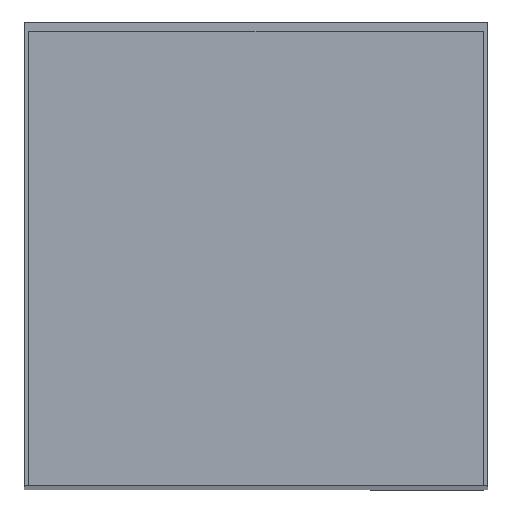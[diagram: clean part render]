
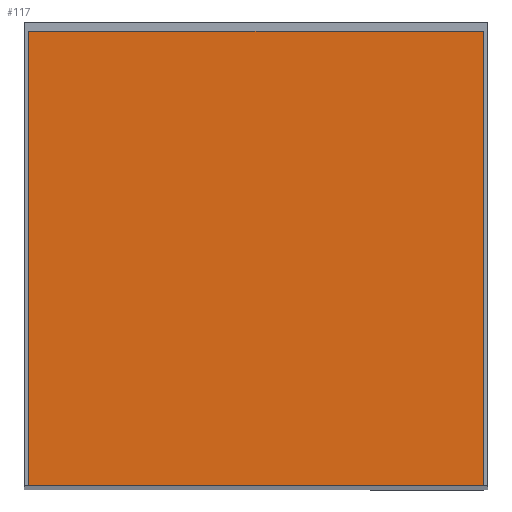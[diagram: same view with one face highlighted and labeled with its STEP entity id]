
A CAD part, top view. The second image highlights one B-rep face of the part: STEP entity #117.
In plain terms, the highlighted planar face has unit normal (0, 0, 1).
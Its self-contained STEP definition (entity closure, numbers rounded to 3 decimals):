
#1 = EDGE_CURVE ( 'NONE', #464, #560, #112, .T. ) ;
#4 = VERTEX_POINT ( 'NONE', #336 ) ;
#9 = DIRECTION ( 'NONE',  ( 0., -1., 0. ) ) ;
#16 = VECTOR ( 'NONE', #230, 1000. ) ;
#41 = VECTOR ( 'NONE', #364, 1000. ) ;
#52 = VECTOR ( 'NONE', #416, 1000. ) ;
#70 = VERTEX_POINT ( 'NONE', #564 ) ;
#107 = ORIENTED_EDGE ( 'NONE', *, *, #120, .T. ) ;
#110 = LINE ( 'NONE', #296, #338 ) ;
#112 = LINE ( 'NONE', #258, #41 ) ;
#117 = ADVANCED_FACE ( 'NONE', ( #256 ), #232, .F. ) ;
#120 = EDGE_CURVE ( 'NONE', #560, #4, #273, .T. ) ;
#122 = ORIENTED_EDGE ( 'NONE', *, *, #1, .T. ) ;
#128 = EDGE_CURVE ( 'NONE', #70, #464, #139, .T. ) ;
#139 = LINE ( 'NONE', #266, #52 ) ;
#141 = EDGE_LOOP ( 'NONE', ( #122, #107, #487, #370 ) ) ;
#178 = DIRECTION ( 'NONE',  ( -1., 0., 0. ) ) ;
#230 = DIRECTION ( 'NONE',  ( -1., 0., 0. ) ) ;
#232 = PLANE ( 'NONE',  #608 ) ;
#238 = CARTESIAN_POINT ( 'NONE',  ( 24.5, 49., 144.5 ) ) ;
#256 = FACE_OUTER_BOUND ( 'NONE', #141, .T. ) ;
#258 = CARTESIAN_POINT ( 'NONE',  ( 24.5, 0., 144.5 ) ) ;
#266 = CARTESIAN_POINT ( 'NONE',  ( -24.5, 0., 144.5 ) ) ;
#273 = LINE ( 'NONE', #463, #16 ) ;
#296 = CARTESIAN_POINT ( 'NONE',  ( -24.5, 0., 144.5 ) ) ;
#336 = CARTESIAN_POINT ( 'NONE',  ( -24.5, 49., 144.5 ) ) ;
#338 = VECTOR ( 'NONE', #9, 1000. ) ;
#364 = DIRECTION ( 'NONE',  ( 0., 1., 0. ) ) ;
#370 = ORIENTED_EDGE ( 'NONE', *, *, #128, .T. ) ;
#416 = DIRECTION ( 'NONE',  ( 1., 0., 0. ) ) ;
#463 = CARTESIAN_POINT ( 'NONE',  ( -24.5, 49., 144.5 ) ) ;
#464 = VERTEX_POINT ( 'NONE', #581 ) ;
#487 = ORIENTED_EDGE ( 'NONE', *, *, #523, .T. ) ;
#512 = DIRECTION ( 'NONE',  ( 0., 0., -1. ) ) ;
#523 = EDGE_CURVE ( 'NONE', #4, #70, #110, .T. ) ;
#560 = VERTEX_POINT ( 'NONE', #238 ) ;
#564 = CARTESIAN_POINT ( 'NONE',  ( -24.5, 0., 144.5 ) ) ;
#581 = CARTESIAN_POINT ( 'NONE',  ( 24.5, 0., 144.5 ) ) ;
#602 = CARTESIAN_POINT ( 'NONE',  ( 0., 24.5, 144.5 ) ) ;
#608 = AXIS2_PLACEMENT_3D ( 'NONE', #602, #512, #178 ) ;
